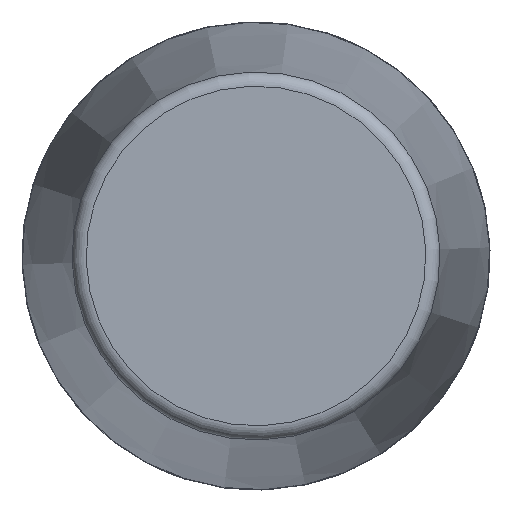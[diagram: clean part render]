
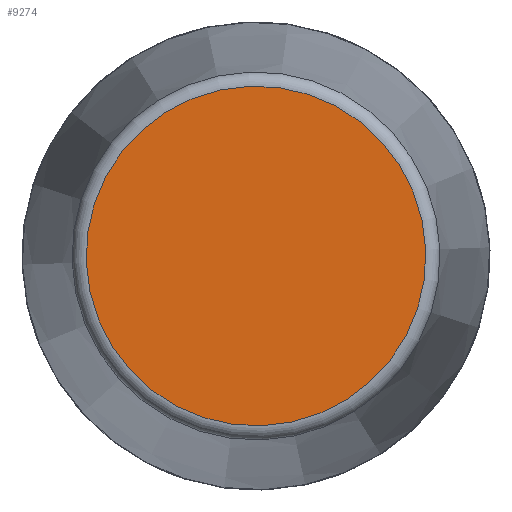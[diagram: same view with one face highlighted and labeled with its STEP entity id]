
A CAD part, front view. The second image highlights one B-rep face of the part: STEP entity #9274.
In plain terms, the highlighted planar face has unit normal (0, -1, 0) as drawn and (1, 0, 0) by its records, which use the part's own axes.
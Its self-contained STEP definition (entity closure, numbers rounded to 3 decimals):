
#233=PLANE('',#9595);
#3167=FACE_OUTER_BOUND('',#3741,.T.);
#3741=EDGE_LOOP('',(#8740));
#3770=CIRCLE('',#9591,59.844);
#4686=VERTEX_POINT('',#17773);
#6041=EDGE_CURVE('',#4686,#4686,#3770,.T.);
#8740=ORIENTED_EDGE('',*,*,#6041,.F.);
#9274=ADVANCED_FACE('',(#3167),#233,.T.);
#9591=AXIS2_PLACEMENT_3D('',#17774,#10823,#10824);
#9595=AXIS2_PLACEMENT_3D('',#17780,#10831,#10832);
#10823=DIRECTION('center_axis',(-1.,0.,0.));
#10824=DIRECTION('ref_axis',(0.,0.,
1.));
#10831=DIRECTION('center_axis',(1.,0.,0.));
#10832=DIRECTION('ref_axis',(0.,0.,-1.));
#17773=CARTESIAN_POINT('',(313.,0.,-59.844));
#17774=CARTESIAN_POINT('Origin',(313.,0.,0.));
#17780=CARTESIAN_POINT('Origin',(313.,0.,0.));
